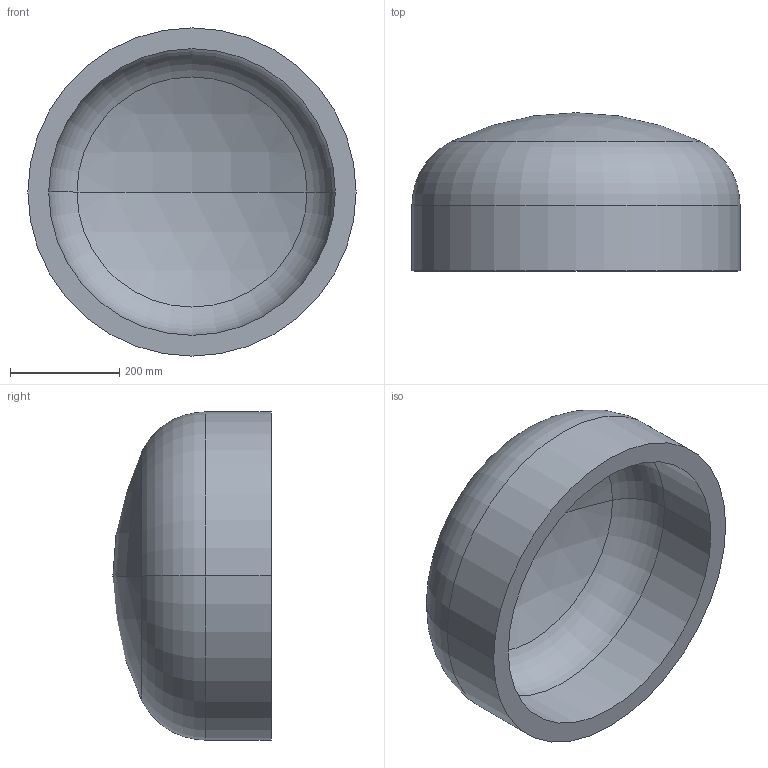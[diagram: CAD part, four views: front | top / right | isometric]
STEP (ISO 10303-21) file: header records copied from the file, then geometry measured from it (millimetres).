
FILE_DESCRIPTION (( 'STEP AP203' ), '1' );
FILE_NAME ('DIN 28013 Korbbogenform_-_Boden DIN 28013 - 600 x 120 - I - s=38.step', '2016-07-01T08:00:12', ( '' ), ( '' ), 'SwSTEP 2.0', 'SolidWorks 2013', '' );
FILE_SCHEMA (( 'CONFIG_CONTROL_DESIGN' ));
Length unit declared in the file: millimetre
Products named in the file (1): DIN 28013 Korbbogenform_-_Boden DIN 28013 - 600 x 120 - I - s=38
Bounding box: 600 x 289.23 x 600 mm (x, y, z)
Volume: 21768159 mm3; surface area: 1215808.5 mm2
Topology: 1 solids, 1 shells, 13 faces, 24 edges, 14 vertices
Faces by surface type: torus 4, cylinder 4, sphere 4, plane 1
Entity records: 407 total; most frequent: DIRECTION 72, CARTESIAN_POINT 52, ORIENTED_EDGE 48, AXIS2_PLACEMENT_3D 34, EDGE_CURVE 24, CIRCLE 20, VERTEX_POINT 14, EDGE_LOOP 14
